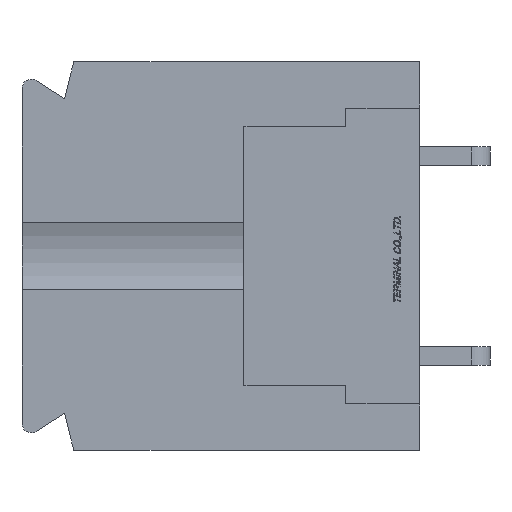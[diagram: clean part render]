
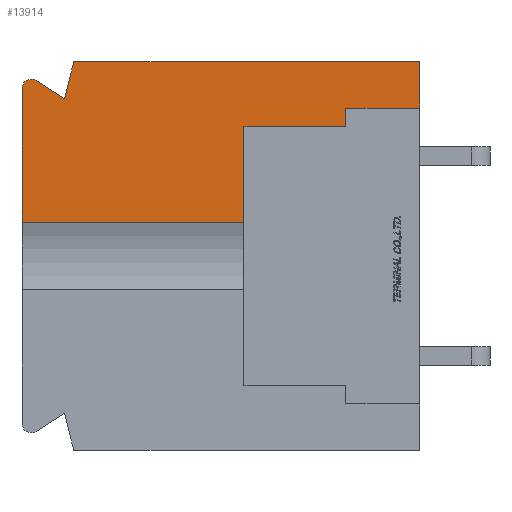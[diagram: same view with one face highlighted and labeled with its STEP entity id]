
A CAD part, left-side view. The second image highlights one B-rep face of the part: STEP entity #13914.
In plain terms, the highlighted planar face has unit normal (-1, 0, 0).
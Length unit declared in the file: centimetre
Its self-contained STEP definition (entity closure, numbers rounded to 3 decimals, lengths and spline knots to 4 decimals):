
#504=CIRCLE('',#23622,0.05);
#817=VECTOR('',#15524,1.);
#818=VECTOR('',#15525,1.);
#819=VECTOR('',#15526,1.);
#820=VECTOR('',#15527,1.);
#821=VECTOR('',#15528,1.);
#822=VECTOR('',#15529,1.);
#823=VECTOR('',#15530,1.);
#824=VECTOR('',#15531,1.);
#825=VECTOR('',#15534,1.);
#826=VECTOR('',#15535,1.);
#2496=LINE('',#18493,#817);
#2497=LINE('',#18496,#818);
#2498=LINE('',#18498,#819);
#2499=LINE('',#18500,#820);
#2500=LINE('',#18502,#821);
#2501=LINE('',#18504,#822);
#2502=LINE('',#18506,#823);
#2503=LINE('',#18508,#824);
#2504=LINE('',#18512,#825);
#2505=LINE('',#18514,#826);
#4188=VERTEX_POINT('',#18494);
#4189=VERTEX_POINT('',#18495);
#4190=VERTEX_POINT('',#18497);
#4191=VERTEX_POINT('',#18499);
#4192=VERTEX_POINT('',#18501);
#4193=VERTEX_POINT('',#18503);
#4194=VERTEX_POINT('',#18505);
#4195=VERTEX_POINT('',#18507);
#4196=VERTEX_POINT('',#18509);
#4197=VERTEX_POINT('',#18511);
#4198=VERTEX_POINT('',#18513);
#5727=EDGE_CURVE('',#4188,#4189,#2496,.T.);
#5728=EDGE_CURVE('',#4190,#4188,#2497,.T.);
#5729=EDGE_CURVE('',#4191,#4190,#2498,.T.);
#5730=EDGE_CURVE('',#4192,#4191,#2499,.T.);
#5731=EDGE_CURVE('',#4193,#4192,#2500,.T.);
#5732=EDGE_CURVE('',#4194,#4193,#2501,.T.);
#5733=EDGE_CURVE('',#4195,#4194,#2502,.T.);
#5734=EDGE_CURVE('',#4196,#4195,#2503,.T.);
#5735=EDGE_CURVE('',#4197,#4196,#504,.T.);
#5736=EDGE_CURVE('',#4198,#4197,#2504,.T.);
#5737=EDGE_CURVE('',#4198,#4189,#2505,.T.);
#7991=ORIENTED_EDGE('',*,*,#5727,.F.);
#7992=ORIENTED_EDGE('',*,*,#5728,.F.);
#7993=ORIENTED_EDGE('',*,*,#5729,.F.);
#7994=ORIENTED_EDGE('',*,*,#5730,.F.);
#7995=ORIENTED_EDGE('',*,*,#5731,.F.);
#7996=ORIENTED_EDGE('',*,*,#5732,.F.);
#7997=ORIENTED_EDGE('',*,*,#5733,.F.);
#7998=ORIENTED_EDGE('',*,*,#5734,.F.);
#7999=ORIENTED_EDGE('',*,*,#5735,.F.);
#8000=ORIENTED_EDGE('',*,*,#5736,.F.);
#8001=ORIENTED_EDGE('',*,*,#5737,.T.);
#12136=EDGE_LOOP('',(#7991,#7992,#7993,#7994,#7995,#7996,#7997,#7998,#7999,
#8000,#8001));
#13030=FACE_BOUND('',#12136,.T.);
#13914=ADVANCED_FACE('',(#13030),#14715,.F.);
#14715=PLANE('',#23621);
#15523=DIRECTION('',(1.,0.,0.));
#15524=DIRECTION('',(0.,0.,-1.));
#15525=DIRECTION('',(0.,1.,0.));
#15526=DIRECTION('',(0.,0.,-1.));
#15527=DIRECTION('',(0.,1.,0.));
#15528=DIRECTION('',(0.,0.,-1.));
#15529=DIRECTION('',(0.,-1.,0.));
#15530=DIRECTION('',(0.,-0.243,0.97));
#15531=DIRECTION('',(0.,-0.844,-0.536));
#15532=DIRECTION('',(1.,0.,0.));
#15533=DIRECTION('',(0.,0.,-0.05));
#15534=DIRECTION('',(0.,0.,1.));
#15535=DIRECTION('',(0.,-1.,0.));
#18492=CARTESIAN_POINT('',(-1.1,1.082,0.));
#18493=CARTESIAN_POINT('',(-1.1,0.95,-0.7));
#18494=CARTESIAN_POINT('',(-1.1,0.95,0.7));
#18495=CARTESIAN_POINT('',(-1.1,0.95,0.1809));
#18496=CARTESIAN_POINT('',(-1.1,0.95,0.7));
#18497=CARTESIAN_POINT('',(-1.1,0.4,0.7));
#18498=CARTESIAN_POINT('',(-1.1,0.4,0.7));
#18499=CARTESIAN_POINT('',(-1.1,0.4,0.8));
#18500=CARTESIAN_POINT('',(-1.1,0.4,0.8));
#18501=CARTESIAN_POINT('',(-1.1,0.,0.8));
#18502=CARTESIAN_POINT('',(-1.1,0.,1.05));
#18503=CARTESIAN_POINT('',(-1.1,0.,1.05));
#18504=CARTESIAN_POINT('',(-1.1,1.87,1.05));
#18505=CARTESIAN_POINT('',(-1.1,1.87,1.05));
#18506=CARTESIAN_POINT('',(-1.1,1.92,0.85));
#18507=CARTESIAN_POINT('',(-1.1,1.92,0.85));
#18508=CARTESIAN_POINT('',(-1.1,2.0742,0.9478));
#18509=CARTESIAN_POINT('',(-1.1,2.0742,0.9478));
#18510=CARTESIAN_POINT('',(-1.1,2.1,0.905));
#18511=CARTESIAN_POINT('',(-1.1,2.15,0.905));
#18512=CARTESIAN_POINT('',(-1.1,2.15,-0.905));
#18513=CARTESIAN_POINT('',(-1.1,2.15,0.1809));
#18514=CARTESIAN_POINT('',(-1.1,1.55,0.1809));
#23621=AXIS2_PLACEMENT_3D('',#18492,#15523,$);
#23622=AXIS2_PLACEMENT_3D('',#18510,#15532,#15533);
